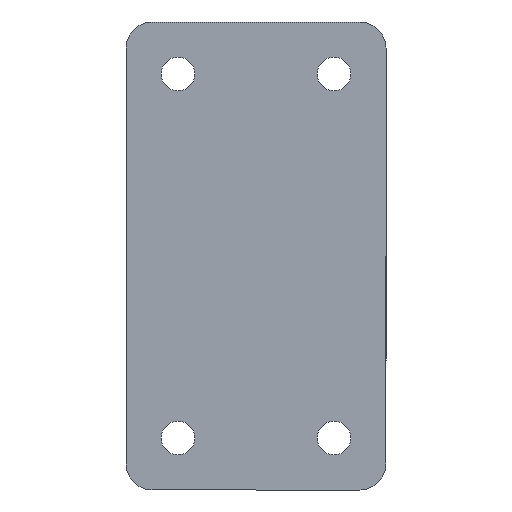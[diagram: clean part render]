
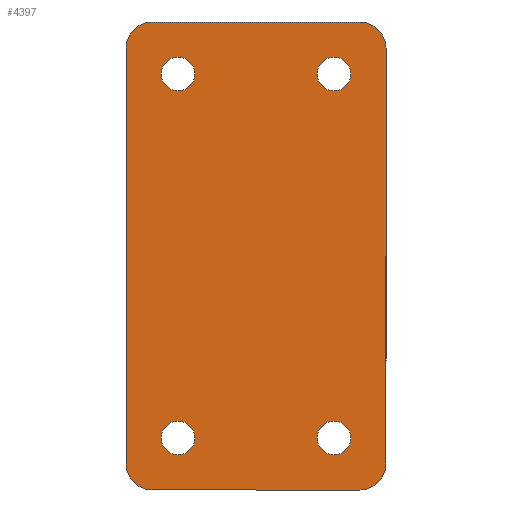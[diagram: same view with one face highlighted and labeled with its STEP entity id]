
A CAD part, front view. The second image highlights one B-rep face of the part: STEP entity #4397.
In plain terms, the highlighted planar face has unit normal (0, -1, 0).
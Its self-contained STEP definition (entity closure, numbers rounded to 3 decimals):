
#8 = CARTESIAN_POINT ( 'NONE',  ( 40., -5., -80. ) ) ;
#23 = DIRECTION ( 'NONE',  ( 0., 0., 1. ) ) ;
#45 = CIRCLE ( 'NONE', #4633, 10. ) ;
#51 = DIRECTION ( 'NONE',  ( 0., -1., 0. ) ) ;
#52 = ORIENTED_EDGE ( 'NONE', *, *, #2481, .T. ) ;
#104 = ORIENTED_EDGE ( 'NONE', *, *, #1194, .T. ) ;
#120 = EDGE_CURVE ( 'NONE', #4154, #6198, #5695, .T. ) ;
#131 = ORIENTED_EDGE ( 'NONE', *, *, #1254, .T. ) ;
#179 = AXIS2_PLACEMENT_3D ( 'NONE', #1732, #5165, #711 ) ;
#207 = EDGE_LOOP ( 'NONE', ( #445, #2416 ) ) ;
#418 = ORIENTED_EDGE ( 'NONE', *, *, #713, .T. ) ;
#429 = DIRECTION ( 'NONE',  ( 0., 0., 1. ) ) ;
#445 = ORIENTED_EDGE ( 'NONE', *, *, #5138, .T. ) ;
#489 = DIRECTION ( 'NONE',  ( 0., 1., 0. ) ) ;
#579 = VERTEX_POINT ( 'NONE', #5578 ) ;
#621 = CARTESIAN_POINT ( 'NONE',  ( 30., -5., -63.5 ) ) ;
#677 = LINE ( 'NONE', #3010, #5664 ) ;
#711 = DIRECTION ( 'NONE',  ( 0., 0., 1. ) ) ;
#713 = EDGE_CURVE ( 'NONE', #1327, #2793, #45, .T. ) ;
#744 = PLANE ( 'NONE',  #5513 ) ;
#787 = CARTESIAN_POINT ( 'NONE',  ( -50., -5., 90. ) ) ;
#912 = CARTESIAN_POINT ( 'NONE',  ( -50., -5., -90. ) ) ;
#919 = DIRECTION ( 'NONE',  ( 0., 1., 0. ) ) ;
#940 = DIRECTION ( 'NONE',  ( 0., 1., 0. ) ) ;
#975 = CARTESIAN_POINT ( 'NONE',  ( 30., -5., 70. ) ) ;
#1004 = CARTESIAN_POINT ( 'NONE',  ( -40., -5., 80. ) ) ;
#1026 = CARTESIAN_POINT ( 'NONE',  ( -50., -5., -80. ) ) ;
#1102 = CARTESIAN_POINT ( 'NONE',  ( 40., -5., 80. ) ) ;
#1104 = EDGE_LOOP ( 'NONE', ( #52, #2189 ) ) ;
#1194 = EDGE_CURVE ( 'NONE', #6281, #1553, #3413, .T. ) ;
#1218 = DIRECTION ( 'NONE',  ( 0., -1., 0. ) ) ;
#1254 = EDGE_CURVE ( 'NONE', #5235, #3940, #2582, .T. ) ;
#1306 = EDGE_CURVE ( 'NONE', #3570, #4028, #4248, .T. ) ;
#1327 = VERTEX_POINT ( 'NONE', #1026 ) ;
#1395 = EDGE_LOOP ( 'NONE', ( #104, #5566 ) ) ;
#1468 = DIRECTION ( 'NONE',  ( 0., 0., 1. ) ) ;
#1503 = CARTESIAN_POINT ( 'NONE',  ( -50., -5., 80. ) ) ;
#1553 = VERTEX_POINT ( 'NONE', #3989 ) ;
#1633 = CARTESIAN_POINT ( 'NONE',  ( -30., -5., 76.5 ) ) ;
#1674 = CIRCLE ( 'NONE', #5349, 6.5 ) ;
#1732 = CARTESIAN_POINT ( 'NONE',  ( -30., -5., 70. ) ) ;
#1821 = LINE ( 'NONE', #787, #3811 ) ;
#1841 = CARTESIAN_POINT ( 'NONE',  ( 30., -5., 63.5 ) ) ;
#1917 = EDGE_CURVE ( 'NONE', #3022, #579, #1674, .T. ) ;
#1952 = DIRECTION ( 'NONE',  ( 0., 1., 0. ) ) ;
#2117 = ORIENTED_EDGE ( 'NONE', *, *, #3830, .F. ) ;
#2157 = CARTESIAN_POINT ( 'NONE',  ( -40., -5., -90. ) ) ;
#2168 = CIRCLE ( 'NONE', #5042, 10. ) ;
#2170 = ORIENTED_EDGE ( 'NONE', *, *, #2178, .F. ) ;
#2178 = EDGE_CURVE ( 'NONE', #1327, #3940, #4592, .T. ) ;
#2189 = ORIENTED_EDGE ( 'NONE', *, *, #1306, .T. ) ;
#2205 = DIRECTION ( 'NONE',  ( 0., 0., 1. ) ) ;
#2245 = VERTEX_POINT ( 'NONE', #6084 ) ;
#2301 = AXIS2_PLACEMENT_3D ( 'NONE', #5860, #489, #3889 ) ;
#2388 = CARTESIAN_POINT ( 'NONE',  ( 30., -5., -70. ) ) ;
#2408 = DIRECTION ( 'NONE',  ( 0., 0., 1. ) ) ;
#2416 = ORIENTED_EDGE ( 'NONE', *, *, #120, .T. ) ;
#2420 = CARTESIAN_POINT ( 'NONE',  ( -40., -5., 90. ) ) ;
#2477 = DIRECTION ( 'NONE',  ( 0., 0., 1. ) ) ;
#2481 = EDGE_CURVE ( 'NONE', #4028, #3570, #5679, .T. ) ;
#2489 = CARTESIAN_POINT ( 'NONE',  ( 30., -5., -70. ) ) ;
#2551 = AXIS2_PLACEMENT_3D ( 'NONE', #1102, #3419, #3522 ) ;
#2582 = CIRCLE ( 'NONE', #4626, 10. ) ;
#2673 = FACE_BOUND ( 'NONE', #1104, .T. ) ;
#2793 = VERTEX_POINT ( 'NONE', #2157 ) ;
#2896 = DIRECTION ( 'NONE',  ( 0., 0., 1. ) ) ;
#2929 = ORIENTED_EDGE ( 'NONE', *, *, #1917, .T. ) ;
#2956 = DIRECTION ( 'NONE',  ( 0., 0., -1. ) ) ;
#2978 = DIRECTION ( 'NONE',  ( 0., -1., 0. ) ) ;
#3010 = CARTESIAN_POINT ( 'NONE',  ( 50., -5., -90. ) ) ;
#3022 = VERTEX_POINT ( 'NONE', #1841 ) ;
#3037 = EDGE_CURVE ( 'NONE', #2245, #2793, #3472, .T. ) ;
#3083 = ORIENTED_EDGE ( 'NONE', *, *, #3456, .T. ) ;
#3113 = FACE_OUTER_BOUND ( 'NONE', #5416, .T. ) ;
#3184 = VERTEX_POINT ( 'NONE', #4524 ) ;
#3191 = CARTESIAN_POINT ( 'NONE',  ( 30., -5., -76.5 ) ) ;
#3231 = AXIS2_PLACEMENT_3D ( 'NONE', #2489, #3466, #5931 ) ;
#3270 = DIRECTION ( 'NONE',  ( -1., 0., 0. ) ) ;
#3284 = FACE_BOUND ( 'NONE', #207, .T. ) ;
#3321 = EDGE_CURVE ( 'NONE', #3184, #5098, #4458, .T. ) ;
#3322 = DIRECTION ( 'NONE',  ( 0., 0., 1. ) ) ;
#3406 = AXIS2_PLACEMENT_3D ( 'NONE', #3440, #919, #2408 ) ;
#3413 = CIRCLE ( 'NONE', #3655, 6.5 ) ;
#3419 = DIRECTION ( 'NONE',  ( 0., -1., 0. ) ) ;
#3430 = CARTESIAN_POINT ( 'NONE',  ( 40., -5., 90. ) ) ;
#3433 = CARTESIAN_POINT ( 'NONE',  ( 50., -5., -80. ) ) ;
#3440 = CARTESIAN_POINT ( 'NONE',  ( -30., -5., -70. ) ) ;
#3441 = AXIS2_PLACEMENT_3D ( 'NONE', #2388, #940, #3322 ) ;
#3456 = EDGE_CURVE ( 'NONE', #2245, #3471, #2168, .T. ) ;
#3466 = DIRECTION ( 'NONE',  ( 0., 1., 0. ) ) ;
#3471 = VERTEX_POINT ( 'NONE', #3433 ) ;
#3472 = LINE ( 'NONE', #5600, #3863 ) ;
#3522 = DIRECTION ( 'NONE',  ( 0., 0., 1. ) ) ;
#3570 = VERTEX_POINT ( 'NONE', #3191 ) ;
#3608 = CIRCLE ( 'NONE', #3406, 6.5 ) ;
#3655 = AXIS2_PLACEMENT_3D ( 'NONE', #3901, #4390, #1468 ) ;
#3811 = VECTOR ( 'NONE', #5184, 1000. ) ;
#3830 = EDGE_CURVE ( 'NONE', #3184, #3471, #677, .T. ) ;
#3863 = VECTOR ( 'NONE', #3270, 1000. ) ;
#3889 = DIRECTION ( 'NONE',  ( 0., 0., 1. ) ) ;
#3901 = CARTESIAN_POINT ( 'NONE',  ( -30., -5., -70. ) ) ;
#3921 = VECTOR ( 'NONE', #429, 1000. ) ;
#3940 = VERTEX_POINT ( 'NONE', #1503 ) ;
#3989 = CARTESIAN_POINT ( 'NONE',  ( -30., -5., -76.5 ) ) ;
#4028 = VERTEX_POINT ( 'NONE', #621 ) ;
#4030 = EDGE_CURVE ( 'NONE', #579, #3022, #4562, .T. ) ;
#4043 = DIRECTION ( 'NONE',  ( 0., 1., 0. ) ) ;
#4091 = CARTESIAN_POINT ( 'NONE',  ( -30., -5., -63.5 ) ) ;
#4104 = CARTESIAN_POINT ( 'NONE',  ( 30., -5., 70. ) ) ;
#4154 = VERTEX_POINT ( 'NONE', #4895 ) ;
#4162 = EDGE_CURVE ( 'NONE', #5235, #5098, #1821, .T. ) ;
#4184 = DIRECTION ( 'NONE',  ( 0., 1., 0. ) ) ;
#4248 = CIRCLE ( 'NONE', #3231, 6.5 ) ;
#4264 = ORIENTED_EDGE ( 'NONE', *, *, #4030, .T. ) ;
#4390 = DIRECTION ( 'NONE',  ( 0., 1., 0. ) ) ;
#4397 = ADVANCED_FACE ( 'NONE', ( #3284, #5209, #2673, #5035, #3113 ), #744, .F. ) ;
#4458 = CIRCLE ( 'NONE', #2551, 10. ) ;
#4524 = CARTESIAN_POINT ( 'NONE',  ( 50., -5., 80. ) ) ;
#4562 = CIRCLE ( 'NONE', #5719, 6.5 ) ;
#4584 = DIRECTION ( 'NONE',  ( 0., 0., 1. ) ) ;
#4592 = LINE ( 'NONE', #912, #3921 ) ;
#4593 = CARTESIAN_POINT ( 'NONE',  ( -40., -5., -80. ) ) ;
#4619 = EDGE_LOOP ( 'NONE', ( #4264, #2929 ) ) ;
#4626 = AXIS2_PLACEMENT_3D ( 'NONE', #1004, #2978, #23 ) ;
#4633 = AXIS2_PLACEMENT_3D ( 'NONE', #4593, #1218, #2205 ) ;
#4848 = EDGE_CURVE ( 'NONE', #1553, #6281, #3608, .T. ) ;
#4895 = CARTESIAN_POINT ( 'NONE',  ( -30., -5., 63.5 ) ) ;
#4933 = ORIENTED_EDGE ( 'NONE', *, *, #3037, .F. ) ;
#5025 = DIRECTION ( 'NONE',  ( 0., 0., 1. ) ) ;
#5035 = FACE_BOUND ( 'NONE', #1395, .T. ) ;
#5042 = AXIS2_PLACEMENT_3D ( 'NONE', #8, #51, #2477 ) ;
#5098 = VERTEX_POINT ( 'NONE', #3430 ) ;
#5127 = CIRCLE ( 'NONE', #2301, 6.5 ) ;
#5138 = EDGE_CURVE ( 'NONE', #6198, #4154, #5127, .T. ) ;
#5165 = DIRECTION ( 'NONE',  ( 0., 1., 0. ) ) ;
#5184 = DIRECTION ( 'NONE',  ( 1., 0., 0. ) ) ;
#5209 = FACE_BOUND ( 'NONE', #4619, .T. ) ;
#5235 = VERTEX_POINT ( 'NONE', #2420 ) ;
#5349 = AXIS2_PLACEMENT_3D ( 'NONE', #975, #1952, #2896 ) ;
#5416 = EDGE_LOOP ( 'NONE', ( #2170, #418, #4933, #3083, #2117, #5935, #5729, #131 ) ) ;
#5513 = AXIS2_PLACEMENT_3D ( 'NONE', #6118, #4184, #4584 ) ;
#5566 = ORIENTED_EDGE ( 'NONE', *, *, #4848, .T. ) ;
#5578 = CARTESIAN_POINT ( 'NONE',  ( 30., -5., 76.5 ) ) ;
#5600 = CARTESIAN_POINT ( 'NONE',  ( -50., -5., -90. ) ) ;
#5664 = VECTOR ( 'NONE', #2956, 1000. ) ;
#5679 = CIRCLE ( 'NONE', #3441, 6.5 ) ;
#5695 = CIRCLE ( 'NONE', #179, 6.5 ) ;
#5719 = AXIS2_PLACEMENT_3D ( 'NONE', #4104, #4043, #5025 ) ;
#5729 = ORIENTED_EDGE ( 'NONE', *, *, #4162, .F. ) ;
#5860 = CARTESIAN_POINT ( 'NONE',  ( -30., -5., 70. ) ) ;
#5931 = DIRECTION ( 'NONE',  ( 0., 0., 1. ) ) ;
#5935 = ORIENTED_EDGE ( 'NONE', *, *, #3321, .T. ) ;
#6084 = CARTESIAN_POINT ( 'NONE',  ( 40., -5., -90. ) ) ;
#6118 = CARTESIAN_POINT ( 'NONE',  ( 0., -5., 0. ) ) ;
#6198 = VERTEX_POINT ( 'NONE', #1633 ) ;
#6281 = VERTEX_POINT ( 'NONE', #4091 ) ;
